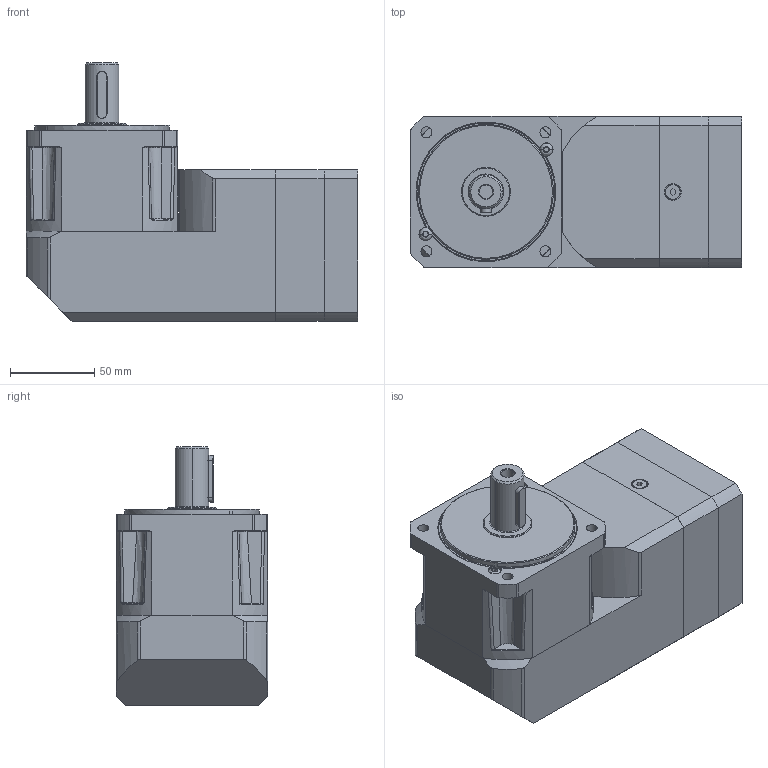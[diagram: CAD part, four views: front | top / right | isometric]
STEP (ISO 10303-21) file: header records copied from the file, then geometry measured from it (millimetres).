
FILE_DESCRIPTION((''),'2;1');
FILE_NAME('PS90-XXX-000-X2_ASM','2009-03-27T',('ata7311'),(''),'PRO/ENGINEER BY PARAMETRIC TECHNOLOGY CORPORATION, 2006300','PRO/ENGINEER BY PARAMETRIC TECHNOLOGY CORPORATION, 2006300','');
FILE_SCHEMA(('CONFIG_CONTROL_DESIGN'));
Products named in the file (16): 13333XXX; 13332000; HD202-0001; 13334000; BHC-M4X8; 13331XXX_ASM; 13340000; 13347000; 13348XXX; 13120001; 12292000; M5X20; 13346XXX_ASM; 13134000; M5X30; PS90-XXX-000-X2_ASM
Assembly tree (20 placements, depth 3):
  PS90-XXX-000-X2_ASM
    13331XXX_ASM
      13333XXX
      13332000
      HD202-0001
      13334000
      BHC-M4X8  x2
    13340000
    13346XXX_ASM
      13347000
      13348XXX
      13120001
      12292000  x2
      M5X20
    13134000
    M5X30  x4
Bounding box: 197 x 90 x 153.5 mm (x, y, z)
Volume: 1237531.7 mm3; surface area: 226333.5 mm2
Topology: 18 solids, 19 shells, 637 faces, 1499 edges, 961 vertices
Faces by surface type: cylinder 267, plane 237, cone 62, bspline 43, torus 28
Entity records: 18558 total; most frequent: CARTESIAN_POINT 5229, DIRECTION 2874, ORIENTED_EDGE 2626, EDGE_CURVE 1313, AXIS2_PLACEMENT_3D 1161, VERTEX_POINT 841, EDGE_LOOP 634, CIRCLE 603
